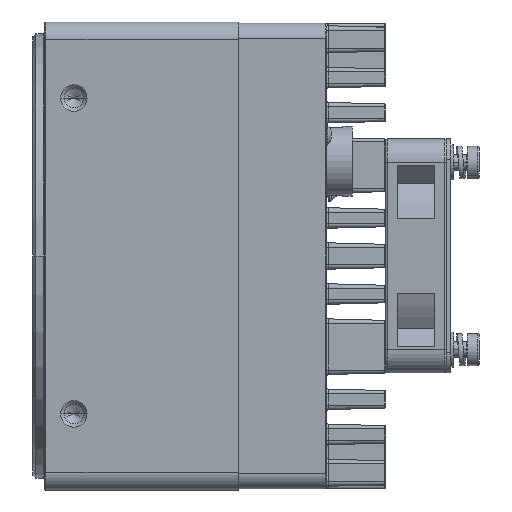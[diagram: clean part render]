
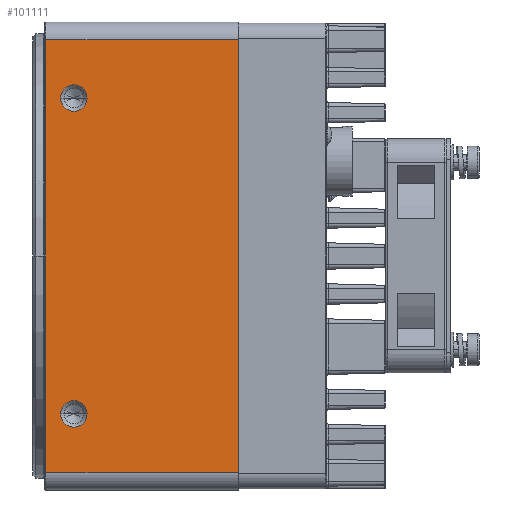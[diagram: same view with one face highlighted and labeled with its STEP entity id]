
A CAD part, left-side view. The second image highlights one B-rep face of the part: STEP entity #101111.
In plain terms, the highlighted planar face has unit normal (-1, 0, 0).
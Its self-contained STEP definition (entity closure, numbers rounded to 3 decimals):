
#8204=DIRECTION('',(0.,0.,-1.));
#8205=VECTOR('',#8204,74.);
#8206=CARTESIAN_POINT('',(-40.,-33.15,37.));
#8207=LINE('',#8206,#8205);
#8703=DIRECTION('',(0.,0.,1.));
#8704=VECTOR('',#8703,74.);
#8705=CARTESIAN_POINT('',(-40.,-0.2,-37.));
#8706=LINE('',#8705,#8704);
#8710=DIRECTION('',(0.,-1.,0.));
#8711=VECTOR('',#8710,32.95);
#8712=CARTESIAN_POINT('',(-40.,-0.2,37.));
#8713=LINE('',#8712,#8711);
#8717=DIRECTION('',(0.,1.,0.));
#8718=VECTOR('',#8717,32.95);
#8719=CARTESIAN_POINT('',(-40.,-33.15,-37.));
#8720=LINE('',#8719,#8718);
#8724=CARTESIAN_POINT('',(-40.,-5.,-27.));
#8725=DIRECTION('',(-1.,0.,0.));
#8726=DIRECTION('',(0.,1.,0.));
#8727=AXIS2_PLACEMENT_3D('',#8724,#8725,#8726);
#8732=CARTESIAN_POINT('',(-40.,-5.,-27.));
#8733=DIRECTION('',(-1.,0.,0.));
#8734=DIRECTION('',(0.,-1.,0.));
#8735=AXIS2_PLACEMENT_3D('',#8732,#8733,#8734);
#8740=CARTESIAN_POINT('',(-40.,-5.,27.));
#8741=DIRECTION('',(-1.,0.,0.));
#8742=DIRECTION('',(0.,1.,0.));
#8743=AXIS2_PLACEMENT_3D('',#8740,#8741,#8742);
#8748=CARTESIAN_POINT('',(-40.,-5.,27.));
#8749=DIRECTION('',(-1.,0.,0.));
#8750=DIRECTION('',(0.,-1.,0.));
#8751=AXIS2_PLACEMENT_3D('',#8748,#8749,#8750);
#83772=CARTESIAN_POINT('',(-40.,-2.75,-27.));
#83773=CARTESIAN_POINT('',(-40.,-7.25,-27.));
#83774=VERTEX_POINT('',#83772);
#83775=VERTEX_POINT('',#83773);
#83778=CARTESIAN_POINT('',(-40.,-2.75,27.));
#83779=CARTESIAN_POINT('',(-40.,-7.25,27.));
#83780=VERTEX_POINT('',#83778);
#83781=VERTEX_POINT('',#83779);
#84179=CARTESIAN_POINT('',(-40.,-33.15,-37.));
#84181=VERTEX_POINT('',#84179);
#84193=CARTESIAN_POINT('',(-40.,-33.15,37.));
#84194=VERTEX_POINT('',#84193);
#84225=CARTESIAN_POINT('',(-40.,-0.2,-37.));
#84226=VERTEX_POINT('',#84225);
#84229=CARTESIAN_POINT('',(-40.,-0.2,37.));
#84230=VERTEX_POINT('',#84229);
#101087=CARTESIAN_POINT('',(-40.,0.,-40.));
#101088=DIRECTION('',(-1.,0.,0.));
#101089=DIRECTION('',(0.,0.,1.));
#101090=AXIS2_PLACEMENT_3D('',#101087,#101088,#101089);
#101091=PLANE('',#101090);
#101093=ORIENTED_EDGE('',*,*,#101092,.T.);
#101094=ORIENTED_EDGE('',*,*,#101075,.T.);
#101095=ORIENTED_EDGE('',*,*,#100660,.T.);
#101096=ORIENTED_EDGE('',*,*,#100708,.T.);
#101097=EDGE_LOOP('',(#101093,#101094,#101095,#101096));
#101098=FACE_OUTER_BOUND('',#101097,.F.);
#101100=ORIENTED_EDGE('',*,*,#101099,.T.);
#101102=ORIENTED_EDGE('',*,*,#101101,.T.);
#101103=EDGE_LOOP('',(#101100,#101102));
#101104=FACE_BOUND('',#101103,.F.);
#101106=ORIENTED_EDGE('',*,*,#101105,.T.);
#101108=ORIENTED_EDGE('',*,*,#101107,.T.);
#101109=EDGE_LOOP('',(#101106,#101108));
#101110=FACE_BOUND('',#101109,.F.);
#101111=ADVANCED_FACE('',(#101098,#101104,#101110),#101091,.T.);
#8728=CIRCLE('',#8727,2.25);
#8736=CIRCLE('',#8735,2.25);
#8744=CIRCLE('',#8743,2.25);
#8752=CIRCLE('',#8751,2.25);
#100660=EDGE_CURVE('',#84194,#84181,#8207,.T.);
#100708=EDGE_CURVE('',#84181,#84226,#8720,.T.);
#101075=EDGE_CURVE('',#84230,#84194,#8713,.T.);
#101092=EDGE_CURVE('',#84226,#84230,#8706,.T.);
#101099=EDGE_CURVE('',#83774,#83775,#8728,.T.);
#101101=EDGE_CURVE('',#83775,#83774,#8736,.T.);
#101105=EDGE_CURVE('',#83780,#83781,#8744,.T.);
#101107=EDGE_CURVE('',#83781,#83780,#8752,.T.);
